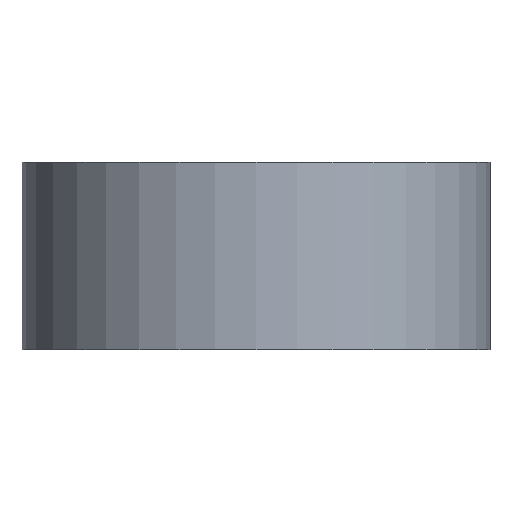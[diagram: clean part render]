
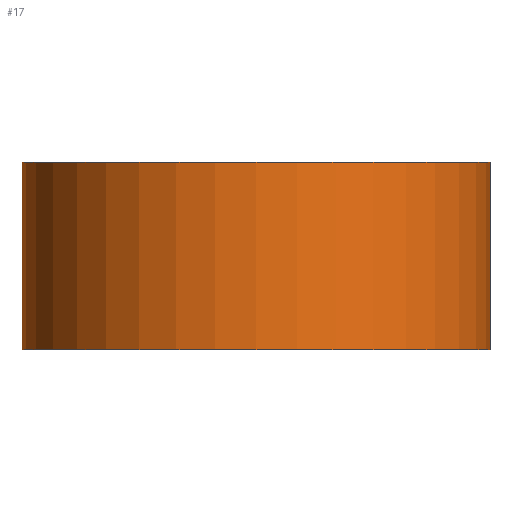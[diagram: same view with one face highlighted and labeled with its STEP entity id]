
A CAD part, front view. The second image highlights one B-rep face of the part: STEP entity #17.
In plain terms, the highlighted cylindrical face has radius 3.75 mm (diameter 7.5 mm), a full revolution.
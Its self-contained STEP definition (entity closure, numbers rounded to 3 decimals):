
#17 = ADVANCED_FACE('',(#18),#32,.T.);
#18 = FACE_BOUND('',#19,.F.);
#19 = EDGE_LOOP('',(#20,#50,#77,#78));
#20 = ORIENTED_EDGE('',*,*,#21,.T.);
#21 = EDGE_CURVE('',#22,#24,#26,.T.);
#22 = VERTEX_POINT('',#23);
#23 = CARTESIAN_POINT('',(7.5,3.75,0.));
#24 = VERTEX_POINT('',#25);
#25 = CARTESIAN_POINT('',(7.5,3.75,3.));
#26 = SEAM_CURVE('',#27,(#31,#43),.PCURVE_S1.);
#27 = LINE('',#28,#29);
#28 = CARTESIAN_POINT('',(7.5,3.75,0.));
#29 = VECTOR('',#30,1.);
#30 = DIRECTION('',(0.,0.,1.));
#31 = PCURVE('',#32,#37);
#32 = CYLINDRICAL_SURFACE('',#33,3.75);
#33 = AXIS2_PLACEMENT_3D('',#34,#35,#36);
#34 = CARTESIAN_POINT('',(3.75,3.75,0.));
#35 = DIRECTION('',(-0.,-0.,-1.));
#36 = DIRECTION('',(1.,0.,0.));
#37 = DEFINITIONAL_REPRESENTATION('',(#38),#42);
#38 = LINE('',#39,#40);
#39 = CARTESIAN_POINT('',(-0.,0.));
#40 = VECTOR('',#41,1.);
#41 = DIRECTION('',(-0.,-1.));
#42 = ( GEOMETRIC_REPRESENTATION_CONTEXT(2) 
PARAMETRIC_REPRESENTATION_CONTEXT() REPRESENTATION_CONTEXT('2D SPACE',''
  ) );
#43 = PCURVE('',#32,#44);
#44 = DEFINITIONAL_REPRESENTATION('',(#45),#49);
#45 = LINE('',#46,#47);
#46 = CARTESIAN_POINT('',(-6.283,0.));
#47 = VECTOR('',#48,1.);
#48 = DIRECTION('',(-0.,-1.));
#49 = ( GEOMETRIC_REPRESENTATION_CONTEXT(2) 
PARAMETRIC_REPRESENTATION_CONTEXT() REPRESENTATION_CONTEXT('2D SPACE',''
  ) );
#50 = ORIENTED_EDGE('',*,*,#51,.T.);
#51 = EDGE_CURVE('',#24,#24,#52,.T.);
#52 = SURFACE_CURVE('',#53,(#58,#65),.PCURVE_S1.);
#53 = CIRCLE('',#54,3.75);
#54 = AXIS2_PLACEMENT_3D('',#55,#56,#57);
#55 = CARTESIAN_POINT('',(3.75,3.75,3.));
#56 = DIRECTION('',(0.,0.,1.));
#57 = DIRECTION('',(1.,0.,0.));
#58 = PCURVE('',#32,#59);
#59 = DEFINITIONAL_REPRESENTATION('',(#60),#64);
#60 = LINE('',#61,#62);
#61 = CARTESIAN_POINT('',(-0.,-3.));
#62 = VECTOR('',#63,1.);
#63 = DIRECTION('',(-1.,0.));
#64 = ( GEOMETRIC_REPRESENTATION_CONTEXT(2) 
PARAMETRIC_REPRESENTATION_CONTEXT() REPRESENTATION_CONTEXT('2D SPACE',''
  ) );
#65 = PCURVE('',#66,#71);
#66 = PLANE('',#67);
#67 = AXIS2_PLACEMENT_3D('',#68,#69,#70);
#68 = CARTESIAN_POINT('',(3.75,3.75,3.));
#69 = DIRECTION('',(0.,0.,1.));
#70 = DIRECTION('',(1.,0.,-0.));
#71 = DEFINITIONAL_REPRESENTATION('',(#72),#76);
#72 = CIRCLE('',#73,3.75);
#73 = AXIS2_PLACEMENT_2D('',#74,#75);
#74 = CARTESIAN_POINT('',(0.,0.));
#75 = DIRECTION('',(1.,0.));
#76 = ( GEOMETRIC_REPRESENTATION_CONTEXT(2) 
PARAMETRIC_REPRESENTATION_CONTEXT() REPRESENTATION_CONTEXT('2D SPACE',''
  ) );
#77 = ORIENTED_EDGE('',*,*,#21,.F.);
#78 = ORIENTED_EDGE('',*,*,#79,.F.);
#79 = EDGE_CURVE('',#22,#22,#80,.T.);
#80 = SURFACE_CURVE('',#81,(#86,#93),.PCURVE_S1.);
#81 = CIRCLE('',#82,3.75);
#82 = AXIS2_PLACEMENT_3D('',#83,#84,#85);
#83 = CARTESIAN_POINT('',(3.75,3.75,0.));
#84 = DIRECTION('',(0.,0.,1.));
#85 = DIRECTION('',(1.,0.,0.));
#86 = PCURVE('',#32,#87);
#87 = DEFINITIONAL_REPRESENTATION('',(#88),#92);
#88 = LINE('',#89,#90);
#89 = CARTESIAN_POINT('',(-0.,0.));
#90 = VECTOR('',#91,1.);
#91 = DIRECTION('',(-1.,0.));
#92 = ( GEOMETRIC_REPRESENTATION_CONTEXT(2) 
PARAMETRIC_REPRESENTATION_CONTEXT() REPRESENTATION_CONTEXT('2D SPACE',''
  ) );
#93 = PCURVE('',#94,#99);
#94 = PLANE('',#95);
#95 = AXIS2_PLACEMENT_3D('',#96,#97,#98);
#96 = CARTESIAN_POINT('',(3.75,3.75,0.));
#97 = DIRECTION('',(0.,0.,1.));
#98 = DIRECTION('',(1.,0.,-0.));
#99 = DEFINITIONAL_REPRESENTATION('',(#100),#104);
#100 = CIRCLE('',#101,3.75);
#101 = AXIS2_PLACEMENT_2D('',#102,#103);
#102 = CARTESIAN_POINT('',(0.,0.));
#103 = DIRECTION('',(1.,0.));
#104 = ( GEOMETRIC_REPRESENTATION_CONTEXT(2) 
PARAMETRIC_REPRESENTATION_CONTEXT() REPRESENTATION_CONTEXT('2D SPACE',''
  ) );
